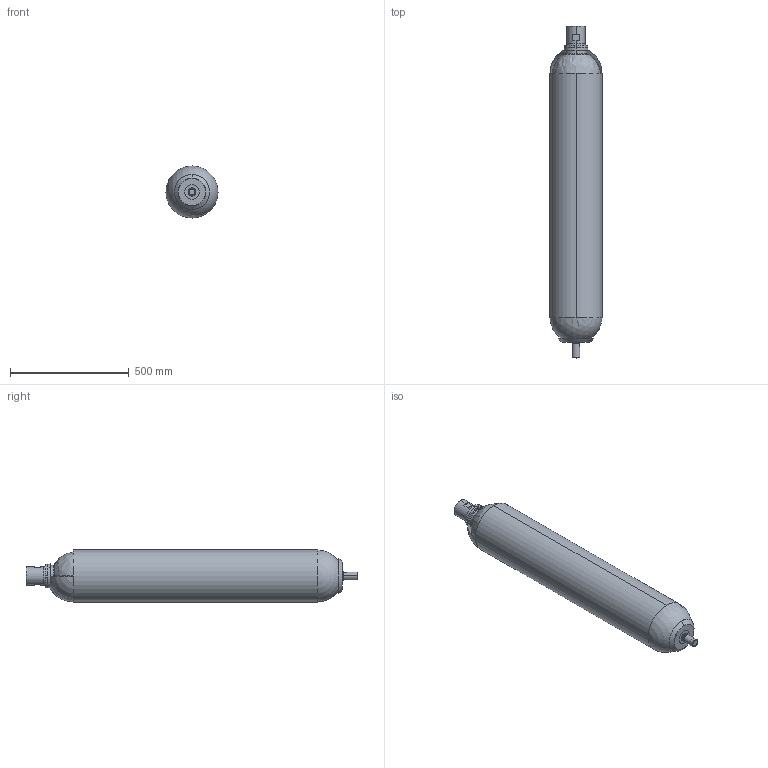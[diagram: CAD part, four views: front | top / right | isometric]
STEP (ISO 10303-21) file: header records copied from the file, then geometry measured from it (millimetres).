
FILE_DESCRIPTION((''),'2;1');
FILE_NAME('EHV_32_330_90.stp','2011-02-28T17:00:16',(''),(''),'Mechanical Desktop 2009','Mechanical Desktop 2009',', , ');
FILE_SCHEMA(('CONFIG_CONTROL_DESIGN'));
Length unit declared in the file: millimetre
Products named in the file (75): DESSIN15; AC108373-01125; CA108363-00190; CA108363-00190A; PF108368-05200A; PF108368-05200; PF108368-05200|AVE_RENDER; PF108368-05200|AVE_GLOBAL; BP102851-00200; BOUCHON DE PROTECTION; BOUCHON PLASTIQUE; EC102958-00200A; EC102958-00200; BC110298-01720; BE105544-01700A; BE105544-01700; EC100990-01200; EC100990-01200A; BM110296-01700; CB110082-01700; CB110082-01700A; GABARIT; VE108382-00225; CS108388-00225; CV108365-00200A; CV108365-00200; CS108388-00025A; CS108388-00025; PM100108-00025A; PM100108-00025; CI100114-00025A; CI100114-00025; VA108479-01626; VA108473-01626; VA108439-01600; VA108439-01600A; VA108439-01600|GABARIT; VA108437-01600A; VA108437-01600; VA108437-01600|GABARITMDT4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
Assembly tree (28 placements, depth 6):
  DESSIN15
    AC108373-01125
      CA108363-00190
        CA108363-00190A
      PF108368-05200A
        PF108368-05200
        PF108368-05200|AVE_RENDER  x8
        PF108368-05200|AVE_GLOBAL
      BP102851-00200
        BOUCHON DE PROTECTION
        BOUCHON PLASTIQUE
      EC102958-00200A
        EC102958-00200
      BC110298-01720
        BE105544-01700A
          BE105544-01700
        EC100990-01200
          EC100990-01200A
        BM110296-01700
          CB110082-01700
            CB110082-01700A
    GABARIT
  VE108382-00225
  CS108388-00225
  CV108365-00200A
  CV108365-00200
Bounding box: 219.1 x 1397.2 x 219.1 mm (x, y, z)
Volume: 2136600.8 mm3; surface area: 1863328.3 mm2
Topology: 8 solids, 8 shells, 207 faces, 495 edges, 301 vertices
Faces by surface type: cylinder 74, plane 53, cone 48, bspline 21, torus 8, sphere 3
Entity records: 8142 total; most frequent: CARTESIAN_POINT 1982, DIRECTION 1218, ORIENTED_EDGE 958, AXIS2_PLACEMENT_3D 522, EDGE_CURVE 479, VERTEX_POINT 297, CIRCLE 287, EDGE_LOOP 242
